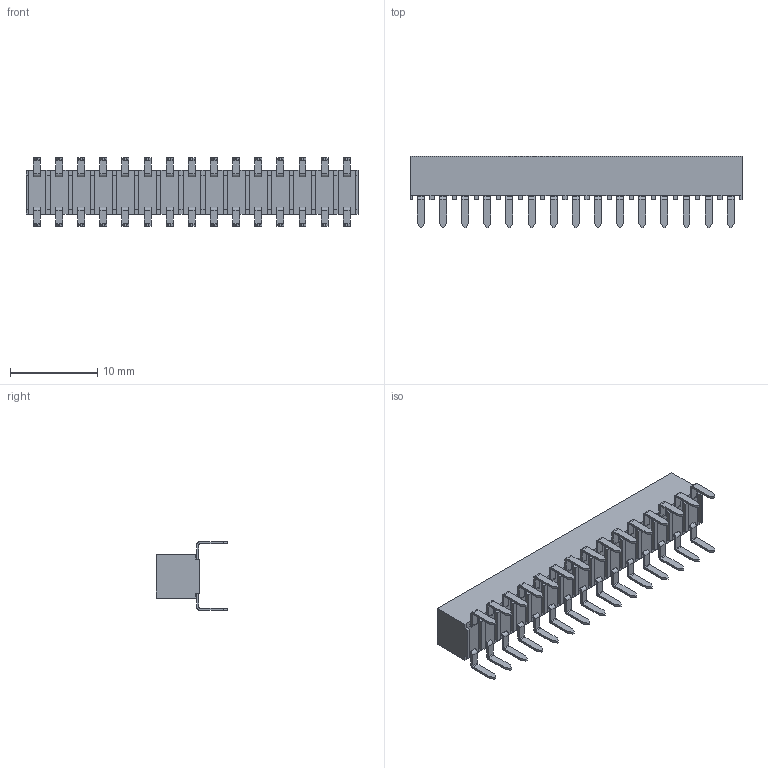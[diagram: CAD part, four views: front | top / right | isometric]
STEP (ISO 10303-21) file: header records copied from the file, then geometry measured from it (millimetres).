
FILE_DESCRIPTION (( 'STEP AP214' ), '1' );
FILE_NAME ('2048-2X15G00EU.STEP', '2018-11-08T05:48:26', ( 'ADMIN' ), ( '' ), 'SwSTEP 2.0', 'SolidWorks 2011', '' );
FILE_SCHEMA (( 'AUTOMOTIVE_DESIGN' ));
Length unit declared in the file: millimetre
Products named in the file (3): 2048-1; 2048-H2X15; 2048-2X15G00EU
Assembly tree (31 placements, depth 2):
  2048-2X15G00EU
    2048-1  x30
    2048-H2X15
Bounding box: 38.1 x 8.2 x 7.87 mm (x, y, z)
Volume: 896.3 mm3; surface area: 1209.7 mm2
Topology: 31 solids, 31 shells, 880 faces, 2244 edges, 1456 vertices
Faces by surface type: plane 760, cylinder 120
Entity records: 12396 total; most frequent: CARTESIAN_POINT 2120, ORIENTED_EDGE 2052, DIRECTION 1934, EDGE_CURVE 1026, VECTOR 1018, LINE 1018, VERTEX_POINT 644, AXIS2_PLACEMENT_3D 458
